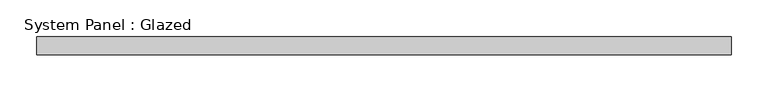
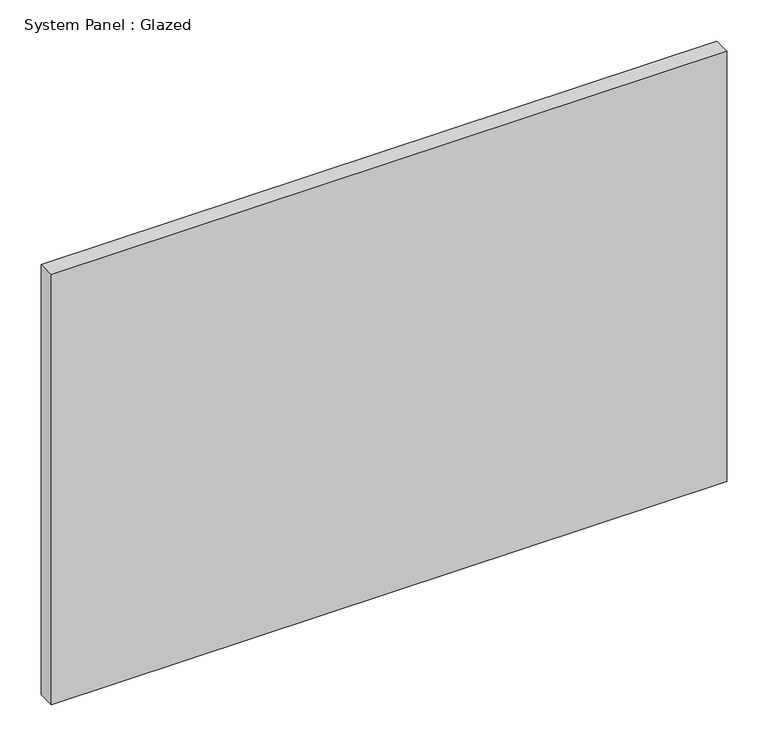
"""IFC4 building model written with IfcOpenShell, lengths in millimetres: plate geometry, System Panel : Glazed."""

import ifcopenshell
import ifcopenshell.guid

model = None  # the IFC model being written
_history = None  # IfcOwnerHistory: only IFC2X3 demands one
_inside = {}  # id of a spatial element -> (the spatial element, [elements in it])
_under = {}  # id of a project, library or spatial element -> (it, [spatial elements below it])
_declared = {}  # id of a project -> (the project, [libraries it declares])
_typed = {}  # id of a type object -> (the type object, [elements of that type])
_made_of = {}  # id of a material, layer set ... -> (it, [elements and type objects made of it])


def new_model(schema):
    """Start an empty IFC model of exactly this schema.

    Asked for "IFC4X3", IfcOpenShell would pick the latest addendum, in which some entities
    have other attributes; the version numbers below select the first issue.
    IFC2X3 requires an IfcOwnerHistory on every rooted entity: one is made here for all.
    """
    global model, _history
    if schema == "IFC4X3":
        model = ifcopenshell.file(schema_version=(4, 3, 0, 0))
    else:
        model = ifcopenshell.file(schema=schema)
    _inside.clear()
    _under.clear()
    _declared.clear()
    _typed.clear()
    _made_of.clear()
    _history = None
    if model.schema == "IFC2X3":
        org = make("IfcOrganization", Name="unknown")
        user = make(
            "IfcPersonAndOrganization",
            ThePerson=make("IfcPerson", FamilyName="unknown"),
            TheOrganization=org,
        )
        app = make(
            "IfcApplication",
            ApplicationDeveloper=org,
            Version="unknown",
            ApplicationFullName="unknown",
            ApplicationIdentifier="unknown",
        )
        _history = make(
            "IfcOwnerHistory",
            OwningUser=user,
            OwningApplication=app,
            ChangeAction="ADDED",
            CreationDate=0,
        )
    return model


def make(cls, **values):
    """One entity of the class cls with the attributes given. An attribute that is None is left unset."""
    return model.create_entity(
        cls, **{name: value for name, value in values.items() if value is not None}
    )


def rooted(cls, **values):
    """An entity with a GlobalId (a new one), such as an element, a storey or a relation."""
    return make(cls, GlobalId=ifcopenshell.guid.new(), OwnerHistory=_history, **values)


def si_unit(unit_type, name, prefix=None):
    """IfcSIUnit, for example si_unit("LENGTHUNIT", "METRE", prefix="MILLI")."""
    return make("IfcSIUnit", UnitType=unit_type, Prefix=prefix, Name=name)


def assignment(units):
    """IfcUnitAssignment: the units of a project."""
    return None if units is None else make("IfcUnitAssignment", Units=units)


def point(xyz):
    """IfcCartesianPoint."""
    return None if xyz is None else make("IfcCartesianPoint", Coordinates=xyz)


def direction(xyz):
    """IfcDirection."""
    return None if xyz is None else make("IfcDirection", DirectionRatios=xyz)


def frame(location, z_axis=None, x_axis=None):
    """IfcAxis2Placement3D, a coordinate frame: its origin and axes. An axis left out is left unset."""
    return make(
        "IfcAxis2Placement3D",
        Location=point(location),
        Axis=direction(z_axis),
        RefDirection=direction(x_axis),
    )


def origin():
    """The frame at (0, 0, 0) with its axes left unset."""
    return frame((0.0, 0.0, 0.0))


def origin_with_axes():
    """The frame at (0, 0, 0) with the z axis (0, 0, 1) and the x axis (1, 0, 0) written out."""
    return frame((0.0, 0.0, 0.0), z_axis=(0.0, 0.0, 1.0), x_axis=(1.0, 0.0, 0.0))


def place(relative_to, where):
    """IfcLocalPlacement: puts the frame where relative to a parent placement (None: the world)."""
    return make(
        "IfcLocalPlacement", PlacementRelTo=relative_to, RelativePlacement=where
    )


def context(
    kind, dimensions, precision=None, world=None, true_north=None, identifier=None
):
    """IfcGeometricRepresentationContext, for example the 3D "Model" context."""
    return make(
        "IfcGeometricRepresentationContext",
        ContextIdentifier=identifier,
        ContextType=kind,
        CoordinateSpaceDimension=dimensions,
        Precision=precision,
        WorldCoordinateSystem=world,
        TrueNorth=true_north,
    )


def project(units=None, contexts=None):
    """IfcProject with its units and contexts."""
    return rooted(
        "IfcProject",
        Name="project",
        RepresentationContexts=contexts,
        UnitsInContext=assignment(units),
    )


def spatial(cls, under=None, at=None, **own):
    """A site, building, storey or space (cls), placed at a placement, below another one or the project."""
    s = rooted(cls, ObjectPlacement=at, **own)
    if under is not None:
        _under.setdefault(under.id(), (under, []))[1].append(s)
    return s


def polyline(points):
    """IfcPolyline through the points."""
    return make("IfcPolyline", Points=[point(p) for p in points])


def outline(outer, holes=None, kind="AREA"):
    """IfcArbitraryClosedProfileDef: a profile drawn as a closed curve; with holes, ...WithVoids."""
    if holes is None:
        return make("IfcArbitraryClosedProfileDef", ProfileType=kind, OuterCurve=outer)
    return make(
        "IfcArbitraryProfileDefWithVoids",
        ProfileType=kind,
        OuterCurve=outer,
        InnerCurves=holes,
    )


def extrude(swept, where, along, depth):
    """IfcExtrudedAreaSolid: the profile swept, set in the frame where, extruded along a direction by depth."""
    return make(
        "IfcExtrudedAreaSolid",
        SweptArea=swept,
        Position=where,
        ExtrudedDirection=direction(along),
        Depth=depth,
    )


def shape(context_of_items, identifier, shape_type, items):
    """IfcShapeRepresentation: the items that make up one representation, for example the "Body"."""
    return make(
        "IfcShapeRepresentation",
        ContextOfItems=context_of_items,
        RepresentationIdentifier=identifier,
        RepresentationType=shape_type,
        Items=items,
    )


def source(mapping_origin, context_of_items, identifier, shape_type, items):
    """IfcRepresentationMap: a shape defined once, which mapped items show again and again."""
    return make(
        "IfcRepresentationMap",
        MappingOrigin=mapping_origin,
        MappedRepresentation=shape(context_of_items, identifier, shape_type, items),
    )


def transform(
    local_origin,
    x_axis=None,
    y_axis=None,
    z_axis=None,
    scale=None,
    scale2=None,
    scale3=None,
    uniform=True,
):
    """IfcCartesianTransformationOperator3D, or its non-uniform kind. x_axis, y_axis, z_axis: its Axis1, 2, 3."""
    if uniform:
        return make(
            "IfcCartesianTransformationOperator3D",
            Axis1=direction(x_axis),
            Axis2=direction(y_axis),
            LocalOrigin=point(local_origin),
            Scale=scale,
            Axis3=direction(z_axis),
        )
    return make(
        "IfcCartesianTransformationOperator3DnonUniform",
        Axis1=direction(x_axis),
        Axis2=direction(y_axis),
        LocalOrigin=point(local_origin),
        Scale=scale,
        Axis3=direction(z_axis),
        Scale2=scale2,
        Scale3=scale3,
    )


def mapped(mapping_source, mapping_target):
    """IfcMappedItem: shows the shape of a source again, moved by a transform."""
    return make(
        "IfcMappedItem", MappingSource=mapping_source, MappingTarget=mapping_target
    )


def made_of(thing, what):
    """Note that an element or type object is made of a material, layer set ...; save() writes the relation."""
    if what is not None:
        _made_of.setdefault(what.id(), (what, []))[1].append(thing)
    return thing


def element(
    cls,
    number,
    at=None,
    inside=None,
    cuts=None,
    type_object=None,
    material=None,
    context=None,
    identifier="Body",
    shape_type=None,
    held_by="IfcProductDefinitionShape",
    body=None,
    shapes=None,
    **own,
):
    """One element of the class cls, such as IfcWall. Its Tag is "e" and its number.

    at: its placement. inside: the storey or other place that contains it. cuts: it is an
    opening in that element (IfcRelVoidsElement). A single representation is given by context,
    identifier, shape_type and body (its items); several are given by shapes. held_by: the class
    of the entity that holds the representations. save() writes the other relations.
    """
    e = rooted(cls, Tag="e%d" % number, ObjectPlacement=at, **own)
    if body is not None:
        shapes = [shape(context, identifier, shape_type, body)]
    if shapes is not None:
        e.Representation = make(held_by, Representations=shapes)
    if inside is not None:
        _inside.setdefault(inside.id(), (inside, []))[1].append(e)
    if cuts is not None:
        rooted(
            "IfcRelVoidsElement", RelatingBuildingElement=cuts, RelatedOpeningElement=e
        )
    if type_object is not None:
        _typed.setdefault(type_object.id(), (type_object, []))[1].append(e)
    return made_of(e, material)


def aggregate(whole, parts):
    """IfcRelAggregates: a whole, such as a stair, and the parts it consists of."""
    return rooted("IfcRelAggregates", RelatingObject=whole, RelatedObjects=parts)


def save(model, path):
    """Write the relations noted so far, then the file.

    IfcRelAggregates (storeys below a building ...), IfcRelContainedInSpatialStructure (elements
    in a storey), IfcRelDefinesByType, IfcRelAssociatesMaterial and IfcRelDeclares: one each for
    every whole, place, type object, material and project.
    """
    for whole, parts in _under.values():
        aggregate(whole, parts)
    for where, things in _inside.values():
        rooted(
            "IfcRelContainedInSpatialStructure",
            RelatedElements=things,
            RelatingStructure=where,
        )
    for kind, things in _typed.values():
        rooted("IfcRelDefinesByType", RelatedObjects=things, RelatingType=kind)
    for what, things in _made_of.values():
        rooted("IfcRelAssociatesMaterial", RelatedObjects=things, RelatingMaterial=what)
    for by, libraries in _declared.values():
        rooted("IfcRelDeclares", RelatingContext=by, RelatedDefinitions=libraries)
    model.write(path)


def system_panel_glazed_33a5e53d(model_context):
    return source(origin(), model_context, "Body", "SweptSolid", [
        extrude(outline(polyline([(475.0, 24.5), (-475.0, 24.5), (-475.0, 49.5), (475.0, 49.5), (475.0, 24.5)])), origin_with_axes(), (0.0, 0.0, 1.0), 639.6468952),
    ])


if __name__ == "__main__":
    model = new_model("IFC4")
    model_context = context("Model", 3, world=origin())
    ifc_project = project(units=[si_unit("LENGTHUNIT", "METRE", prefix="MILLI")], contexts=[model_context])
    site = spatial("IfcSite", under=ifc_project)
    building = spatial("IfcBuilding", under=site)
    placement = place(None, origin())
    system_panel_glazed_shape = system_panel_glazed_33a5e53d(model_context)
    element("IfcPlate", 1, ObjectType="System Panel : Glazed", at=placement, inside=building, context=model_context, shape_type="MappedRepresentation", body=[
        mapped(system_panel_glazed_shape, transform((0.0, 0.0, 0.0), x_axis=(1.0, 0.0, 0.0), y_axis=(0.0, 1.0, 0.0), z_axis=(0.0, 0.0, 1.0))),
    ])
    save(model, "model.ifc")
